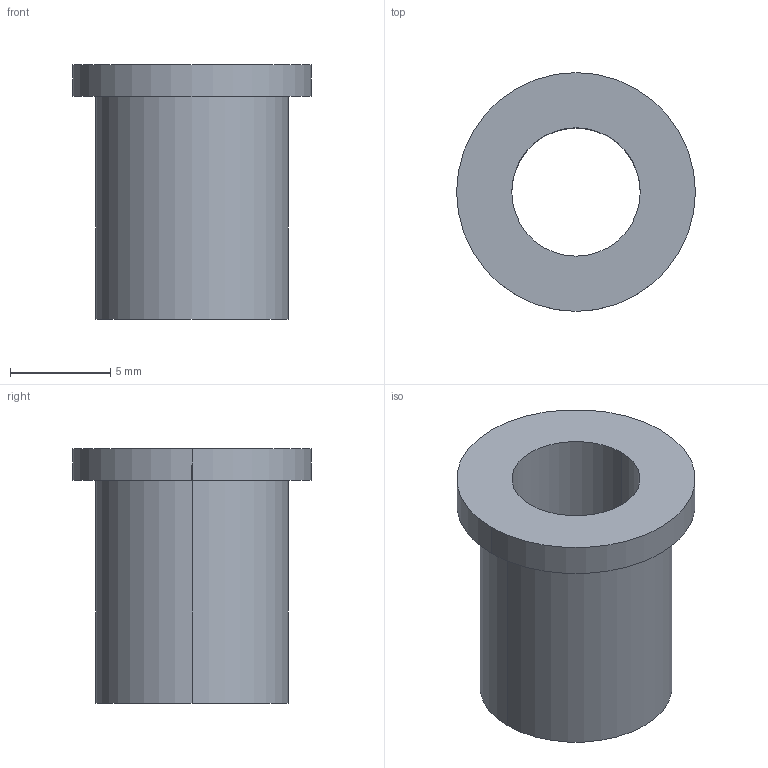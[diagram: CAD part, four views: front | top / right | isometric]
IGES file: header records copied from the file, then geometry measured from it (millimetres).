
Global section: file name: C:\Documents and Settings\Administrator\Desktop\Transfer Temp\bushing-fbb-4-8.igs; native system: AutoDesk Inventor R2.0 ; preprocessor: AutoDesk Inventor Iges Exporter R2.0; author: No Author specified; organization: No Organization specified; date: 20011227.203354; units: inch
Bounding box: 11.91 x 11.91 x 12.7 mm (x, y, z)
Surface area: 807.9 mm2 (no closed solid volume)
Topology: 0 solids, 0 shells, 9 faces, 36 edges, 36 vertices
Faces by surface type: revolution 6, bspline 3
